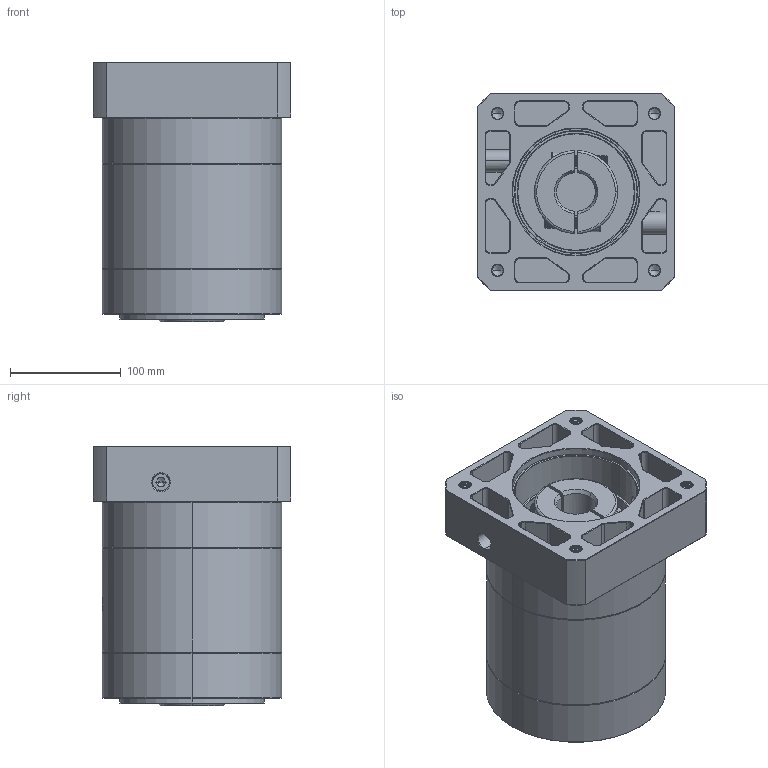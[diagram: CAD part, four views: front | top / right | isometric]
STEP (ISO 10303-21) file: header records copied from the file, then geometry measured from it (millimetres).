
FILE_DESCRIPTION (( 'STEP AP214' ), '1' );
FILE_NAME ('ZE160A-K35-L2-P2-35-114.3-200-M12.step', '2023-09-04T02:53:52', ( '' ), ( '' ), 'SwSTEP 2.0', 'SolidWorks 2016', '' );
FILE_SCHEMA (( 'AUTOMOTIVE_DESIGN' ));
Length unit declared in the file: millimetre
Products named in the file (1): ZE160A-K35-L2-P2-35-114.3-200-M12
Bounding box: 178 x 178 x 234.2 mm (x, y, z)
Volume: 4511490.2 mm3; surface area: 368289 mm2
Topology: 6 solids, 6 shells, 2298 faces, 6187 edges, 3992 vertices
Faces by surface type: plane 1022, cylinder 533, bspline 370, cone 353, torus 20
Entity records: 137340 total; most frequent: CARTESIAN_POINT 59585, ORIENTED_EDGE 12302, DIRECTION 9254, EDGE_CURVE 6151, VERTEX_POINT 3992, VECTOR 3210, LINE 3210, AXIS2_PLACEMENT_3D 3022
